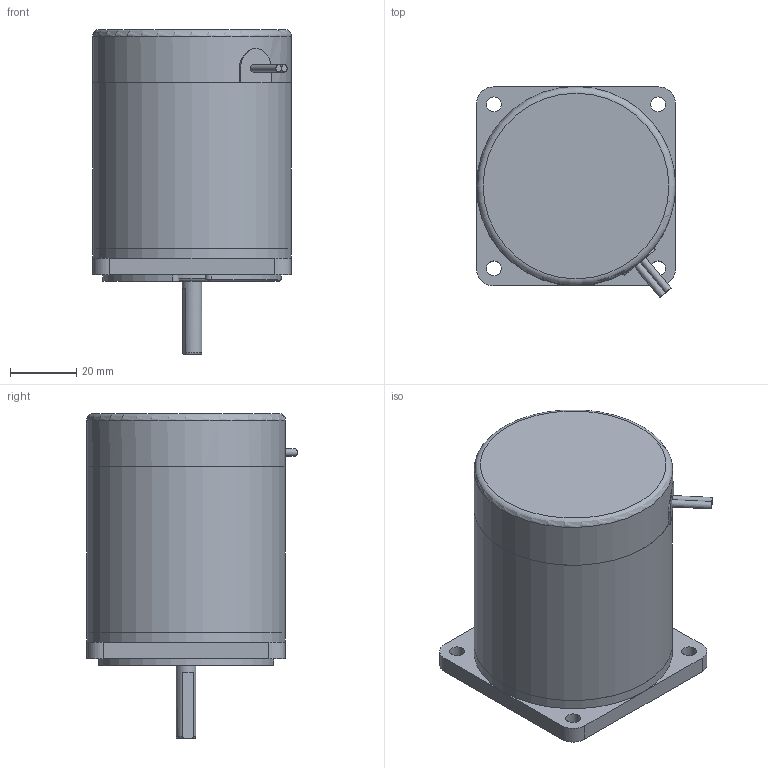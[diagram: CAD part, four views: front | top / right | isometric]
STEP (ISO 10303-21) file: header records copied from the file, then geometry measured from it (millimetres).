
FILE_DESCRIPTION((''),'2;1');
FILE_NAME('D:\연구개발부2팀 1파트\10_진행업무\3D_60각\S6D10-ㅁD.stp','2013-06-05T16:38:00',('song'),(''),'Autodesk Inventor 2011','Autodesk Inventor 2011','');
FILE_SCHEMA(('AUTOMOTIVE_DESIGN { 1 0 10303 214 1 1 1 1 }'));
Length unit declared in the file: millimetre
Products named in the file (9): S6D10; REAR HOUSING ASS'Y(신형); REAR HOUSING(신형); cord bush; PIPE HOUSING; FRONT HOUSING(신형); NF EN ISO 7045 - Z M4 x 40 - 4.8 - Z; AS 1968 4; shaft_D-CUTt
Assembly tree (9 placements, depth 2):
  S6D10
    PIPE HOUSING
    FRONT HOUSING(신형)
    NF EN ISO 7045 - Z M4 x 40 - 4.8 - Z  x2
    AS 1968 4  x2
    shaft_D-CUTt
  REAR HOUSING ASS'Y(신형)
    REAR HOUSING(신형)
    cord bush
Bounding box: 60 x 63.59 x 98 mm (x, y, z)
Volume: 214541.5 mm3; surface area: 36552.6 mm2
Topology: 9 solids, 9 shells, 171 faces, 405 edges, 259 vertices
Faces by surface type: plane 79, cylinder 39, cone 38, torus 13, sphere 2
Full cylindrical faces by diameter (mm): 2.2 x2, 3.621 x2, 4 x2, 4.2 x2, 4.5 x4, 6 x1, 8 x3, 9 x1, 30 x1, 60 x3
Entity records: 3990 total; most frequent: CARTESIAN_POINT 974, DIRECTION 622, ORIENTED_EDGE 512, AXIS2_PLACEMENT_3D 274, EDGE_CURVE 256, VERTEX_POINT 178, EDGE_LOOP 169, FACE_OUTER_BOUND 123
